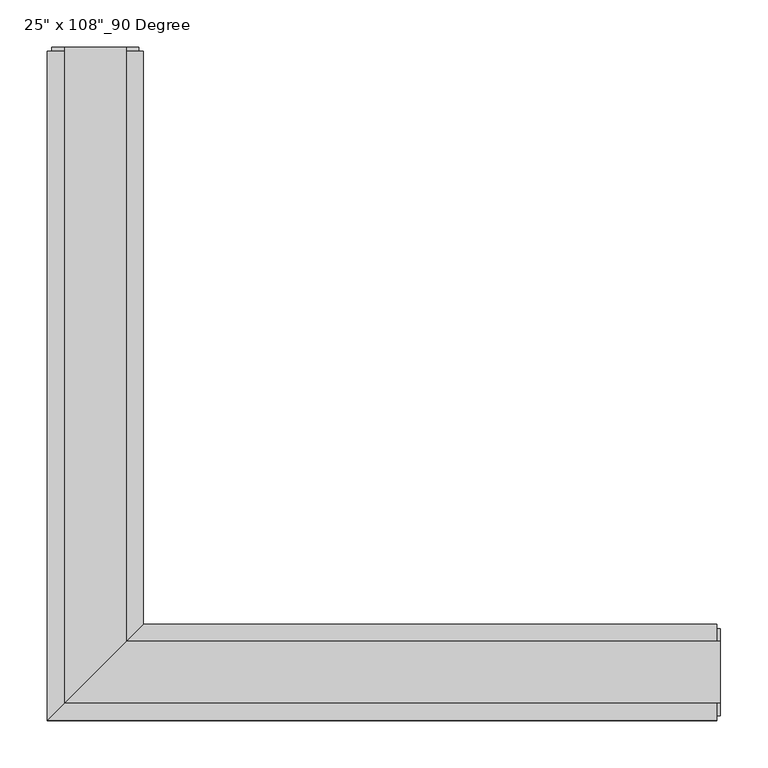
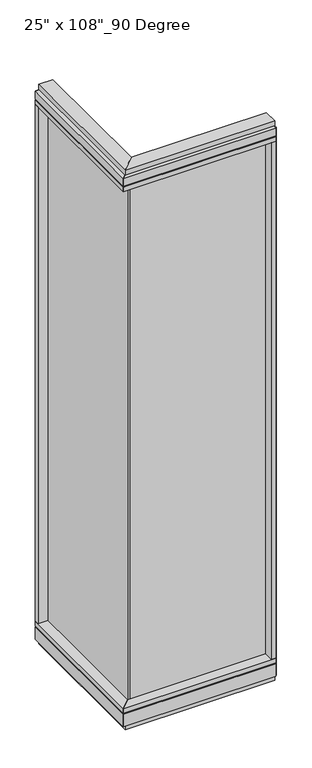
"""IFC4 building model written with IfcOpenShell, lengths in millimetres: furniture geometry."""

from ifc_helpers import new_model, si_unit, frame, origin, origin_with_axes, place, context, project, spatial, polyline, outline, extrude, faceted_brep, source, transform, mapped, element, save


def furniture_3abc578a(model_context):
    return source(origin(), model_context, "Body", "SolidModel", [
        extrude(outline(polyline([(-369.9165229, 629.7202784), (-359.7565229, 629.7202784), (-359.7565229, -9.5977216), (-369.9165229, -9.5977216), (-369.9165229, 629.7202784)])), frame((0.0, 0.0, 120.523), z_axis=(0.0, 0.0, 1.0), x_axis=(1.0, 0.0, 0.0)), (0.0, 0.0, 1.0), 2533.777),
        extrude(outline(polyline([(-314.0365229, 651.9452784), (-314.0365229, 46.2822784), (-415.6365229, -55.3177216), (-415.6365229, 651.9452784), (-314.0365229, 651.9452784)])), frame((0.0, 0.0, 2654.3), z_axis=(0.0, 0.0, 1.0), x_axis=(1.0, 0.0, 0.0)), (0.0, 0.0, 1.0), 22.225),
        faceted_brep([(-314.0365229, 46.2822784, 2681.478), (-314.0365229, 46.2822784, 2717.8), (-415.6365229, -55.3177216, 2717.8), (-415.6365229, -55.3177216, 2681.478), (-410.6835229, -50.3647216, 2681.478), (-410.6835229, -50.3647216, 2676.525), (-318.9895229, 41.3292784, 2676.525), (-318.9895229, 41.3292784, 2681.478), (-314.0365229, 651.9452784, 2681.478), (-318.9895229, 651.9452784, 2681.478), (-318.9895229, 651.9452784, 2676.525), (-410.6835229, 651.9452784, 2676.525), (-410.6835229, 651.9452784, 2681.478), (-415.6365229, 651.9452784, 2681.478), (-415.6365229, 651.9452784, 2717.8), (-314.0365229, 651.9452784, 2717.8)], [[[0, 1, 2, 3, 4, 5, 6, 7]], [[8, 9, 10, 11, 12, 13, 14, 15]], [[8, 0, 7, 9]], [[13, 3, 2, 14]], [[14, 2, 1, 15]], [[15, 1, 0, 8]], [[9, 7, 6, 10]], [[10, 6, 5, 11]], [[11, 5, 4, 12]], [[12, 4, 3, 13]]]),
        extrude(outline(polyline([(-332.3245229, 655.8822784), (-332.3245229, 27.9942784), (-397.3485229, -37.0297216), (-397.3485229, 655.8822784), (-332.3245229, 655.8822784)])), frame((0.0, 0.0, 2717.8), z_axis=(0.0, 0.0, 1.0), x_axis=(1.0, 0.0, 0.0)), (0.0, 0.0, 1.0), 25.4),
        faceted_brep([(-318.9895229, 41.3292784, 93.345), (-318.9895229, 41.3292784, 98.298), (-410.6835229, -50.3647216, 98.298), (-410.6835229, -50.3647216, 93.345), (-415.6365229, -55.3177216, 93.345), (-415.6365229, -55.3177216, 31.75), (-314.0365229, 46.2822784, 31.75), (-314.0365229, 46.2822784, 93.345), (-314.0365229, 651.9452784, 93.345), (-314.0365229, 651.9452784, 31.75), (-415.6365229, 651.9452784, 31.75), (-415.6365229, 651.9452784, 93.345), (-410.6835229, 651.9452784, 93.345), (-410.6835229, 651.9452784, 98.298), (-318.9895229, 651.9452784, 98.298), (-318.9895229, 651.9452784, 93.345)], [[[0, 1, 2, 3, 4, 5, 6, 7]], [[8, 9, 10, 11, 12, 13, 14, 15]], [[15, 0, 7, 8]], [[10, 5, 4, 11]], [[9, 6, 5, 10]], [[8, 7, 6, 9]], [[14, 1, 0, 15]], [[13, 2, 1, 14]], [[12, 3, 2, 13]], [[11, 4, 3, 12]]]),
        extrude(outline(polyline([(-314.0365229, 651.9452784), (-314.0365229, 46.2822784), (-415.6365229, -55.3177216), (-415.6365229, 651.9452784), (-314.0365229, 651.9452784)])), frame((0.0, 0.0, 98.298), z_axis=(0.0, 0.0, 1.0), x_axis=(1.0, 0.0, 0.0)), (0.0, 0.0, 1.0), 22.225),
        extrude(outline(polyline([(-332.3245229, 655.8822784), (-332.3245229, 27.9942784), (-397.3485229, -37.0297216), (-397.3485229, 655.8822784), (-332.3245229, 655.8822784)])), origin_with_axes(), (0.0, 0.0, 1.0), 31.75),
        extrude(outline(polyline([(-415.6365229, 629.7202784), (-415.6365229, 651.9452784), (-314.0365229, 651.9452784), (-314.0365229, 629.7202784), (-415.6365229, 629.7202784)])), frame((0.0, 0.0, 120.523), z_axis=(0.0, 0.0, 1.0), x_axis=(1.0, 0.0, 0.0)), (0.0, 0.0, 1.0), 2533.777),
        extrude(outline(polyline([(-410.6835229, 655.8822784), (-318.9895229, 655.8822784), (-318.9895229, 651.9452784), (-410.6835229, 651.9452784), (-410.6835229, 655.8822784)])), frame((0.0, 0.0, 31.75), z_axis=(0.0, 0.0, 1.0), x_axis=(1.0, 0.0, 0.0)), (0.0, 0.0, 1.0), 2686.05),
        extrude(outline(polyline([(269.4014771, -9.5977216), (-369.9165229, -9.5977216), (-369.9165229, 0.5622784), (269.4014771, 0.5622784), (269.4014771, -9.5977216)])), frame((0.0, 0.0, 120.523), z_axis=(0.0, 0.0, 1.0), x_axis=(1.0, 0.0, 0.0)), (0.0, 0.0, 1.0), 2533.777),
        extrude(outline(polyline([(291.6264771, 46.2822784), (291.6264771, -55.3177216), (-415.6365229, -55.3177216), (-314.0365229, 46.2822784), (291.6264771, 46.2822784)])), frame((0.0, 0.0, 2654.3), z_axis=(0.0, 0.0, 1.0), x_axis=(1.0, 0.0, 0.0)), (0.0, 0.0, 1.0), 22.225),
        faceted_brep([(-314.0365229, 46.2822784, 2681.478), (-318.9895229, 41.3292784, 2681.478), (-318.9895229, 41.3292784, 2676.525), (-410.6835229, -50.3647216, 2676.525), (-410.6835229, -50.3647216, 2681.478), (-415.6365229, -55.3177216, 2681.478), (-415.6365229, -55.3177216, 2717.8), (-314.0365229, 46.2822784, 2717.8), (291.6264771, 46.2822784, 2681.478), (291.6264771, 46.2822784, 2717.8), (291.6264771, -55.3177216, 2717.8), (291.6264771, -55.3177216, 2681.478), (291.6264771, -50.3647216, 2681.478), (291.6264771, -50.3647216, 2676.525), (291.6264771, 41.3292784, 2676.525), (291.6264771, 41.3292784, 2681.478)], [[[0, 1, 2, 3, 4, 5, 6, 7]], [[8, 9, 10, 11, 12, 13, 14, 15]], [[8, 15, 1, 0]], [[11, 10, 6, 5]], [[10, 9, 7, 6]], [[9, 8, 0, 7]], [[15, 14, 2, 1]], [[14, 13, 3, 2]], [[13, 12, 4, 3]], [[12, 11, 5, 4]]]),
        extrude(outline(polyline([(295.5634771, 27.9942784), (295.5634771, -37.0297216), (-397.3485229, -37.0297216), (-332.3245229, 27.9942784), (295.5634771, 27.9942784)])), frame((0.0, 0.0, 2717.8), z_axis=(0.0, 0.0, 1.0), x_axis=(1.0, 0.0, 0.0)), (0.0, 0.0, 1.0), 25.4),
        faceted_brep([(-318.9895229, 41.3292784, 93.345), (-314.0365229, 46.2822784, 93.345), (-314.0365229, 46.2822784, 31.75), (-415.6365229, -55.3177216, 31.75), (-415.6365229, -55.3177216, 93.345), (-410.6835229, -50.3647216, 93.345), (-410.6835229, -50.3647216, 98.298), (-318.9895229, 41.3292784, 98.298), (291.6264771, 46.2822784, 93.345), (291.6264771, 41.3292784, 93.345), (291.6264771, 41.3292784, 98.298), (291.6264771, -50.3647216, 98.298), (291.6264771, -50.3647216, 93.345), (291.6264771, -55.3177216, 93.345), (291.6264771, -55.3177216, 31.75), (291.6264771, 46.2822784, 31.75)], [[[0, 1, 2, 3, 4, 5, 6, 7]], [[8, 9, 10, 11, 12, 13, 14, 15]], [[9, 8, 1, 0]], [[14, 13, 4, 3]], [[15, 14, 3, 2]], [[8, 15, 2, 1]], [[10, 9, 0, 7]], [[11, 10, 7, 6]], [[12, 11, 6, 5]], [[13, 12, 5, 4]]]),
        extrude(outline(polyline([(291.6264771, 46.2822784), (291.6264771, -55.3177216), (-415.6365229, -55.3177216), (-314.0365229, 46.2822784), (291.6264771, 46.2822784)])), frame((0.0, 0.0, 98.298), z_axis=(0.0, 0.0, 1.0), x_axis=(1.0, 0.0, 0.0)), (0.0, 0.0, 1.0), 22.225),
        extrude(outline(polyline([(295.5634771, 27.9942784), (295.5634771, -37.0297216), (-397.3485229, -37.0297216), (-332.3245229, 27.9942784), (295.5634771, 27.9942784)])), origin_with_axes(), (0.0, 0.0, 1.0), 31.75),
        extrude(outline(polyline([(269.4014771, -55.3177216), (269.4014771, 46.2822784), (291.6264771, 46.2822784), (291.6264771, -55.3177216), (269.4014771, -55.3177216)])), frame((0.0, 0.0, 120.523), z_axis=(0.0, 0.0, 1.0), x_axis=(1.0, 0.0, 0.0)), (0.0, 0.0, 1.0), 2533.777),
        extrude(outline(polyline([(295.5634771, -50.3647216), (291.6264771, -50.3647216), (291.6264771, 41.3292784), (295.5634771, 41.3292784), (295.5634771, -50.3647216)])), frame((0.0, 0.0, 31.75), z_axis=(0.0, 0.0, 1.0), x_axis=(1.0, 0.0, 0.0)), (0.0, 0.0, 1.0), 2686.05),
    ])


if __name__ == "__main__":
    model = new_model("IFC4")
    model_context = context("Model", 3, world=origin())
    ifc_project = project(units=[si_unit("LENGTHUNIT", "METRE", prefix="MILLI")], contexts=[model_context])
    site = spatial("IfcSite", under=ifc_project)
    building = spatial("IfcBuilding", under=site)
    placement = place(None, origin())
    furniture_shape = furniture_3abc578a(model_context)
    element("IfcFurniture", 1, ObjectType="Haworth_Enclose_Wall_GlassCorner : 25\" x 108\"_90 Degree", at=placement, inside=building, context=model_context, shape_type="MappedRepresentation", body=[
        mapped(furniture_shape, transform((0.0, 0.0, 0.0), x_axis=(1.0, 0.0, 0.0), y_axis=(0.0, 1.0, 0.0), z_axis=(0.0, 0.0, 1.0))),
    ])
    save(model, "model.ifc")
